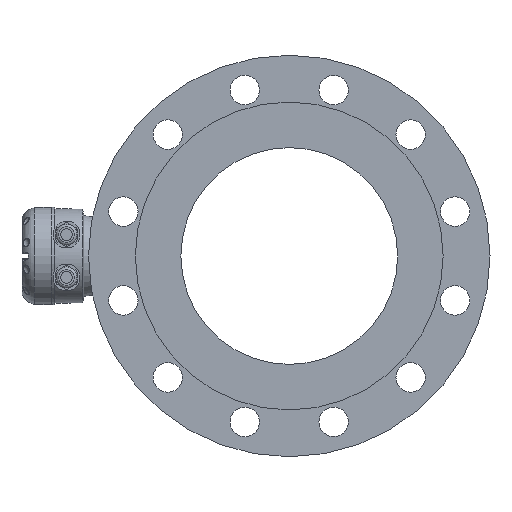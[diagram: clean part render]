
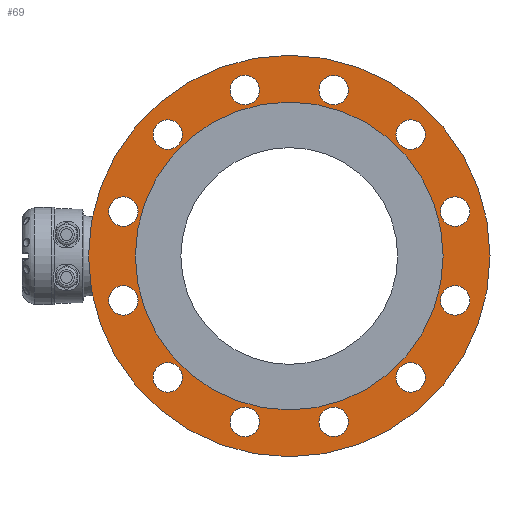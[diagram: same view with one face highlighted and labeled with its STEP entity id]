
A CAD part, left-side view. The second image highlights one B-rep face of the part: STEP entity #69.
In plain terms, the highlighted planar face has unit normal (-1, 0, 0).
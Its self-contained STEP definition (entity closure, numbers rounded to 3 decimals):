
#69 = ADVANCED_FACE ( 'NONE', ( #5992, #5995, #5993, #5822, #5823, #5994, #5996, #5997, #5998, #5999, #6000, #6001, #6002, #6003 ), #3571, .T. ) ;
#3571 = PLANE ( 'NONE',  #8928 ) ;
#3574 = DIRECTION ( 'NONE',  ( 0., 0., -1. ) ) ;
#3667 = DIRECTION ( 'NONE',  ( -1., 0., 0. ) ) ;
#3669 = CARTESIAN_POINT ( 'NONE',  ( -239.805, -200.017, -10.543 ) ) ;
#3751 = EDGE_CURVE ( 'NONE', #13991, #13991, #10014, .T. ) ;
#3850 = EDGE_CURVE ( 'NONE', #14045, #14045, #10096, .T. ) ;
#3883 = EDGE_CURVE ( 'NONE', #14059, #14059, #10115, .T. ) ;
#4021 = EDGE_CURVE ( 'NONE', #14089, #14089, #10201, .T. ) ;
#4055 = EDGE_CURVE ( 'NONE', #14097, #14097, #10228, .T. ) ;
#4067 = EDGE_CURVE ( 'NONE', #14105, #14105, #10239, .T. ) ;
#4126 = EDGE_CURVE ( 'NONE', #14121, #14121, #10283, .T. ) ;
#4186 = EDGE_CURVE ( 'NONE', #14135, #14135, #10330, .T. ) ;
#4193 = EDGE_CURVE ( 'NONE', #14141, #14141, #10335, .T. ) ;
#4300 = EDGE_CURVE ( 'NONE', #14169, #14169, #10405, .T. ) ;
#4303 = EDGE_CURVE ( 'NONE', #14171, #14171, #10407, .T. ) ;
#4318 = EDGE_CURVE ( 'NONE', #14173, #14173, #10421, .T. ) ;
#4325 = EDGE_CURVE ( 'NONE', #14177, #14177, #10425, .T. ) ;
#4364 = EDGE_CURVE ( 'NONE', #14183, #14183, #10447, .T. ) ;
#5501 = EDGE_LOOP ( 'NONE', ( #5832 ) ) ;
#5528 = EDGE_LOOP ( 'NONE', ( #5834 ) ) ;
#5589 = EDGE_LOOP ( 'NONE', ( #5833 ) ) ;
#5649 = EDGE_LOOP ( 'NONE', ( #5839 ) ) ;
#5694 = EDGE_LOOP ( 'NONE', ( #8015 ) ) ;
#5697 = EDGE_LOOP ( 'NONE', ( #8014 ) ) ;
#5704 = EDGE_LOOP ( 'NONE', ( #8003 ) ) ;
#5708 = EDGE_LOOP ( 'NONE', ( #5895 ) ) ;
#5731 = EDGE_LOOP ( 'NONE', ( #5894 ) ) ;
#5746 = EDGE_LOOP ( 'NONE', ( #5829 ) ) ;
#5752 = EDGE_LOOP ( 'NONE', ( #5838 ) ) ;
#5756 = EDGE_LOOP ( 'NONE', ( #5837 ) ) ;
#5762 = EDGE_LOOP ( 'NONE', ( #5836 ) ) ;
#5794 = EDGE_LOOP ( 'NONE', ( #5835 ) ) ;
#5822 = FACE_BOUND ( 'NONE', #5704, .T. ) ;
#5823 = FACE_BOUND ( 'NONE', #5708, .T. ) ;
#5829 = ORIENTED_EDGE ( 'NONE', *, *, #4364, .F. ) ;
#5832 = ORIENTED_EDGE ( 'NONE', *, *, #4055, .T. ) ;
#5833 = ORIENTED_EDGE ( 'NONE', *, *, #4300, .F. ) ;
#5834 = ORIENTED_EDGE ( 'NONE', *, *, #4193, .F. ) ;
#5835 = ORIENTED_EDGE ( 'NONE', *, *, #4325, .F. ) ;
#5836 = ORIENTED_EDGE ( 'NONE', *, *, #4021, .F. ) ;
#5837 = ORIENTED_EDGE ( 'NONE', *, *, #4318, .F. ) ;
#5838 = ORIENTED_EDGE ( 'NONE', *, *, #3883, .F. ) ;
#5839 = ORIENTED_EDGE ( 'NONE', *, *, #4303, .F. ) ;
#5894 = ORIENTED_EDGE ( 'NONE', *, *, #4126, .F. ) ;
#5895 = ORIENTED_EDGE ( 'NONE', *, *, #4067, .F. ) ;
#5992 = FACE_BOUND ( 'NONE', #5649, .T. ) ;
#5993 = FACE_BOUND ( 'NONE', #5697, .T. ) ;
#5994 = FACE_BOUND ( 'NONE', #5731, .T. ) ;
#5995 = FACE_BOUND ( 'NONE', #5694, .T. ) ;
#5996 = FACE_BOUND ( 'NONE', #5746, .T. ) ;
#5997 = FACE_BOUND ( 'NONE', #5752, .T. ) ;
#5998 = FACE_BOUND ( 'NONE', #5756, .T. ) ;
#5999 = FACE_BOUND ( 'NONE', #5762, .T. ) ;
#6000 = FACE_BOUND ( 'NONE', #5794, .T. ) ;
#6001 = FACE_BOUND ( 'NONE', #5528, .T. ) ;
#6002 = FACE_OUTER_BOUND ( 'NONE', #5589, .T. ) ;
#6003 = FACE_BOUND ( 'NONE', #5501, .T. ) ;
#7041 = CARTESIAN_POINT ( 'NONE',  ( -239.805, -63.899, 125.575 ) ) ;
#7053 = DIRECTION ( 'NONE',  ( -1., 0., 0. ) ) ;
#7054 = DIRECTION ( 'NONE',  ( 0., 0., 1. ) ) ;
#8003 = ORIENTED_EDGE ( 'NONE', *, *, #3850, .F. ) ;
#8014 = ORIENTED_EDGE ( 'NONE', *, *, #4186, .F. ) ;
#8015 = ORIENTED_EDGE ( 'NONE', *, *, #3751, .F. ) ;
#8928 = AXIS2_PLACEMENT_3D ( 'NONE', #3669, #3667, #3574 ) ;
#9164 = AXIS2_PLACEMENT_3D ( 'NONE', #7041, #7053, #7054 ) ;
#9190 = AXIS2_PLACEMENT_3D ( 'NONE', #10760, #10767, #10768 ) ;
#9199 = AXIS2_PLACEMENT_3D ( 'NONE', #10923, #10928, #10929 ) ;
#9229 = AXIS2_PLACEMENT_3D ( 'NONE', #11322, #11329, #11330 ) ;
#9236 = AXIS2_PLACEMENT_3D ( 'NONE', #11428, #11436, #11437 ) ;
#9243 = AXIS2_PLACEMENT_3D ( 'NONE', #11471, #11483, #11484 ) ;
#9261 = AXIS2_PLACEMENT_3D ( 'NONE', #11672, #11690, #11691 ) ;
#9270 = AXIS2_PLACEMENT_3D ( 'NONE', #11795, #11802, #11803 ) ;
#9273 = AXIS2_PLACEMENT_3D ( 'NONE', #11818, #11819, #11820 ) ;
#9289 = AXIS2_PLACEMENT_3D ( 'NONE', #12104, #12105, #12106 ) ;
#9293 = AXIS2_PLACEMENT_3D ( 'NONE', #12099, #12108, #12110 ) ;
#9294 = AXIS2_PLACEMENT_3D ( 'NONE', #12107, #12128, #12129 ) ;
#9297 = AXIS2_PLACEMENT_3D ( 'NONE', #12127, #12136, #12137 ) ;
#9299 = AXIS2_PLACEMENT_3D ( 'NONE', #12161, #12168, #12169 ) ;
#10014 = CIRCLE ( 'NONE', #9164, 16.5 ) ;
#10096 = CIRCLE ( 'NONE', #9190, 16.5 ) ;
#10115 = CIRCLE ( 'NONE', #9199, 16.5 ) ;
#10201 = CIRCLE ( 'NONE', #9229, 16.5 ) ;
#10228 = CIRCLE ( 'NONE', #9236, 172.5 ) ;
#10239 = CIRCLE ( 'NONE', #9243, 16.5 ) ;
#10283 = CIRCLE ( 'NONE', #9261, 16.5 ) ;
#10330 = CIRCLE ( 'NONE', #9270, 16.5 ) ;
#10335 = CIRCLE ( 'NONE', #9273, 16.5 ) ;
#10405 = CIRCLE ( 'NONE', #9289, 225. ) ;
#10407 = CIRCLE ( 'NONE', #9293, 16.5 ) ;
#10421 = CIRCLE ( 'NONE', #9294, 16.5 ) ;
#10425 = CIRCLE ( 'NONE', #9297, 16.5 ) ;
#10447 = CIRCLE ( 'NONE', #9299, 16.5 ) ;
#10760 = CARTESIAN_POINT ( 'NONE',  ( -239.805, -249.84, 175.398 ) ) ;
#10767 = DIRECTION ( 'NONE',  ( -1., 0., 0. ) ) ;
#10768 = DIRECTION ( 'NONE',  ( 0., 0., 1. ) ) ;
#10923 = CARTESIAN_POINT ( 'NONE',  ( -239.805, -336.135, -146.661 ) ) ;
#10928 = DIRECTION ( 'NONE',  ( -1., 0., 0. ) ) ;
#10929 = DIRECTION ( 'NONE',  ( 0., 0., 1. ) ) ;
#11322 = CARTESIAN_POINT ( 'NONE',  ( -239.805, -150.194, -196.484 ) ) ;
#11329 = DIRECTION ( 'NONE',  ( -1., 0., 0. ) ) ;
#11330 = DIRECTION ( 'NONE',  ( 0., 0., 1. ) ) ;
#11428 = CARTESIAN_POINT ( 'NONE',  ( -239.805, -200.017, -10.543 ) ) ;
#11436 = DIRECTION ( 'NONE',  ( 1., 0., 0. ) ) ;
#11437 = DIRECTION ( 'NONE',  ( 0., 0., -1. ) ) ;
#11471 = CARTESIAN_POINT ( 'NONE',  ( -239.805, -336.135, 125.575 ) ) ;
#11483 = DIRECTION ( 'NONE',  ( -1., 0., 0. ) ) ;
#11484 = DIRECTION ( 'NONE',  ( 0., 0., 1. ) ) ;
#11672 = CARTESIAN_POINT ( 'NONE',  ( -239.805, -385.958, 39.28 ) ) ;
#11690 = DIRECTION ( 'NONE',  ( -1., 0., 0. ) ) ;
#11691 = DIRECTION ( 'NONE',  ( 0., 0., 1. ) ) ;
#11795 = CARTESIAN_POINT ( 'NONE',  ( -239.805, -150.194, 175.398 ) ) ;
#11802 = DIRECTION ( 'NONE',  ( -1., 0., 0. ) ) ;
#11803 = DIRECTION ( 'NONE',  ( 0., 0., 1. ) ) ;
#11818 = CARTESIAN_POINT ( 'NONE',  ( -239.805, -14.076, -60.365 ) ) ;
#11819 = DIRECTION ( 'NONE',  ( -1., 0., 0. ) ) ;
#11820 = DIRECTION ( 'NONE',  ( 0., 0., 1. ) ) ;
#12099 = CARTESIAN_POINT ( 'NONE',  ( -239.805, -14.076, 39.28 ) ) ;
#12104 = CARTESIAN_POINT ( 'NONE',  ( -239.805, -200.017, -10.543 ) ) ;
#12105 = DIRECTION ( 'NONE',  ( 1., 0., 0. ) ) ;
#12106 = DIRECTION ( 'NONE',  ( 0., 0., -1. ) ) ;
#12107 = CARTESIAN_POINT ( 'NONE',  ( -239.805, -249.84, -196.484 ) ) ;
#12108 = DIRECTION ( 'NONE',  ( -1., 0., 0. ) ) ;
#12110 = DIRECTION ( 'NONE',  ( 0., 0., 1. ) ) ;
#12127 = CARTESIAN_POINT ( 'NONE',  ( -239.805, -63.899, -146.661 ) ) ;
#12128 = DIRECTION ( 'NONE',  ( -1., 0., 0. ) ) ;
#12129 = DIRECTION ( 'NONE',  ( 0., 0., 1. ) ) ;
#12136 = DIRECTION ( 'NONE',  ( -1., 0., 0. ) ) ;
#12137 = DIRECTION ( 'NONE',  ( 0., 0., 1. ) ) ;
#12161 = CARTESIAN_POINT ( 'NONE',  ( -239.805, -385.958, -60.365 ) ) ;
#12168 = DIRECTION ( 'NONE',  ( -1., 0., 0. ) ) ;
#12169 = DIRECTION ( 'NONE',  ( 0., 0., 1. ) ) ;
#13991 = VERTEX_POINT ( 'NONE', #13992 ) ;
#13992 = CARTESIAN_POINT ( 'NONE',  ( -239.805, -63.899, 142.075 ) ) ;
#14045 = VERTEX_POINT ( 'NONE', #14046 ) ;
#14046 = CARTESIAN_POINT ( 'NONE',  ( -239.805, -249.84, 191.898 ) ) ;
#14059 = VERTEX_POINT ( 'NONE', #14060 ) ;
#14060 = CARTESIAN_POINT ( 'NONE',  ( -239.805, -336.135, -130.161 ) ) ;
#14089 = VERTEX_POINT ( 'NONE', #14090 ) ;
#14090 = CARTESIAN_POINT ( 'NONE',  ( -239.805, -150.194, -179.984 ) ) ;
#14097 = VERTEX_POINT ( 'NONE', #14098 ) ;
#14098 = CARTESIAN_POINT ( 'NONE',  ( -239.805, -200.017, -183.043 ) ) ;
#14105 = VERTEX_POINT ( 'NONE', #14106 ) ;
#14106 = CARTESIAN_POINT ( 'NONE',  ( -239.805, -336.135, 142.075 ) ) ;
#14121 = VERTEX_POINT ( 'NONE', #14122 ) ;
#14122 = CARTESIAN_POINT ( 'NONE',  ( -239.805, -385.958, 55.78 ) ) ;
#14135 = VERTEX_POINT ( 'NONE', #14136 ) ;
#14136 = CARTESIAN_POINT ( 'NONE',  ( -239.805, -150.194, 191.898 ) ) ;
#14141 = VERTEX_POINT ( 'NONE', #14142 ) ;
#14142 = CARTESIAN_POINT ( 'NONE',  ( -239.805, -14.076, -43.865 ) ) ;
#14169 = VERTEX_POINT ( 'NONE', #14170 ) ;
#14170 = CARTESIAN_POINT ( 'NONE',  ( -239.805, -200.017, -235.543 ) ) ;
#14171 = VERTEX_POINT ( 'NONE', #14172 ) ;
#14172 = CARTESIAN_POINT ( 'NONE',  ( -239.805, -14.076, 55.78 ) ) ;
#14173 = VERTEX_POINT ( 'NONE', #14174 ) ;
#14174 = CARTESIAN_POINT ( 'NONE',  ( -239.805, -249.84, -179.984 ) ) ;
#14177 = VERTEX_POINT ( 'NONE', #14178 ) ;
#14178 = CARTESIAN_POINT ( 'NONE',  ( -239.805, -63.899, -130.161 ) ) ;
#14183 = VERTEX_POINT ( 'NONE', #14184 ) ;
#14184 = CARTESIAN_POINT ( 'NONE',  ( -239.805, -385.958, -43.865 ) ) ;
